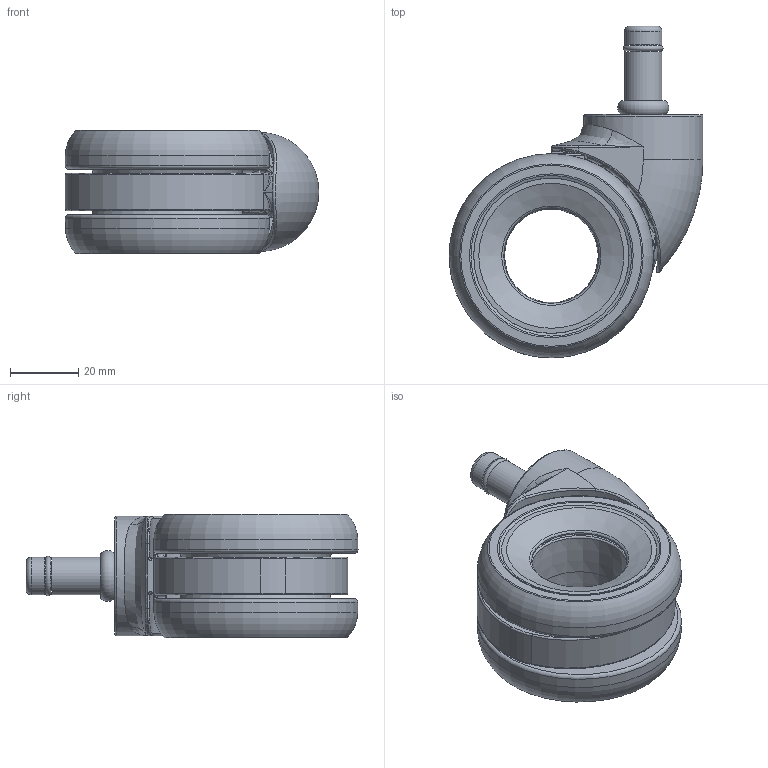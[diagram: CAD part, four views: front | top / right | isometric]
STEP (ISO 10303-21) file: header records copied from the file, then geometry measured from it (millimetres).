
FILE_DESCRIPTION (( 'STEP AP203' ), '1' );
FILE_NAME ('K09U35(リング).STEP', '2025-04-11T04:16:52', ( '' ), ( '' ), 'SwSTEP 2.0', 'SolidWorks 2025', '' );
FILE_SCHEMA (( 'CONFIG_CONTROL_DESIGN' ));
Length unit declared in the file: millimetre
Products named in the file (5): 本体; TPU車輪; K09U35(リング); 35カバー_2; リング縦軸
Assembly tree (5 placements, depth 2):
  K09U35(リング)
    本体
    リング縦軸
    TPU車輪  x2
    35カバー_2
Bounding box: 74.5 x 97.5 x 36.4 mm (x, y, z)
Volume: 85861.8 mm3; surface area: 62698 mm2
Topology: 10 solids, 11 shells, 718 faces, 1948 edges, 1168 vertices
Faces by surface type: plane 267, cylinder 148, bspline 118, torus 96, cone 57, sphere 32
Full cylindrical faces by diameter (mm): 2.3 x45, 7.5 x1, 7.7 x1, 9 x2, 9.4 x2, 11 x2, 15.6 x1, 16 x2, 16.2 x1, 17 x1, 34 x2, 34.95 x1, 35 x2, 36 x4, 36.4 x4, 38.35 x3, 44.15 x3, 46 x2, 46.95 x1, 47 x1, 54.897 x4
Entity records: 24312 total; most frequent: CARTESIAN_POINT 10608, ORIENTED_EDGE 2732, DIRECTION 2563, EDGE_CURVE 1366, AXIS2_PLACEMENT_3D 1135, VERTEX_POINT 894, EDGE_LOOP 864, FACE_OUTER_BOUND 706
